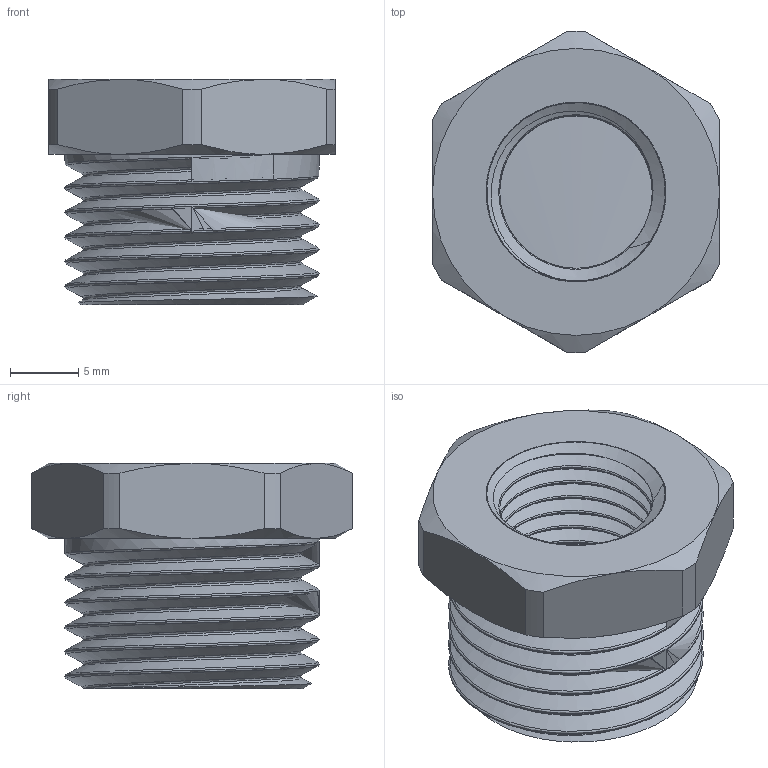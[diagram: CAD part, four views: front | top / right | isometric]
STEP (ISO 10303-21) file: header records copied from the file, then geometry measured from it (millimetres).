
FILE_DESCRIPTION(/* description */ (''),/* implementation_level */ '2;1');
FILE_NAME(/* name */ 'C:\Users\Doom\Desktop\Фадотех\Резьба\PF03 18.03.2020\PF03 18.03.2020.stp',/* time_stamp */ '2022-01-14T00:13:39+02:00',/* author */ ('Doom'),/* organization */ (''),/* preprocessor_version */ 'ST-DEVELOPER v18',/* originating_system */ 'Autodesk Inventor 2020',/* authorisation */ '');
FILE_SCHEMA (('AUTOMOTIVE_DESIGN { 1 0 10303 214 3 1 1 }'));
Length unit declared in the file: millimetre
Products named in the file (1): PF03 18.03.2020
Bounding box: 21 x 23.5 x 16.5 mm (x, y, z)
Volume: 2762.9 mm3; surface area: 5321.6 mm2
Topology: 3 solids, 3 shells, 70 faces, 181 edges, 118 vertices
Faces by surface type: cylinder 29, cone 15, plane 14, bspline 12
Full cylindrical faces by diameter (mm): 11.168 x8, 13.15 x2, 15.7 x1, 15.94 x2, 18.63 x6
Entity records: 9768 total; most frequent: CARTESIAN_POINT 8190, ORIENTED_EDGE 362, DIRECTION 264, EDGE_CURVE 181, VERTEX_POINT 118, AXIS2_PLACEMENT_3D 113, EDGE_LOOP 77, ADVANCED_FACE 70
